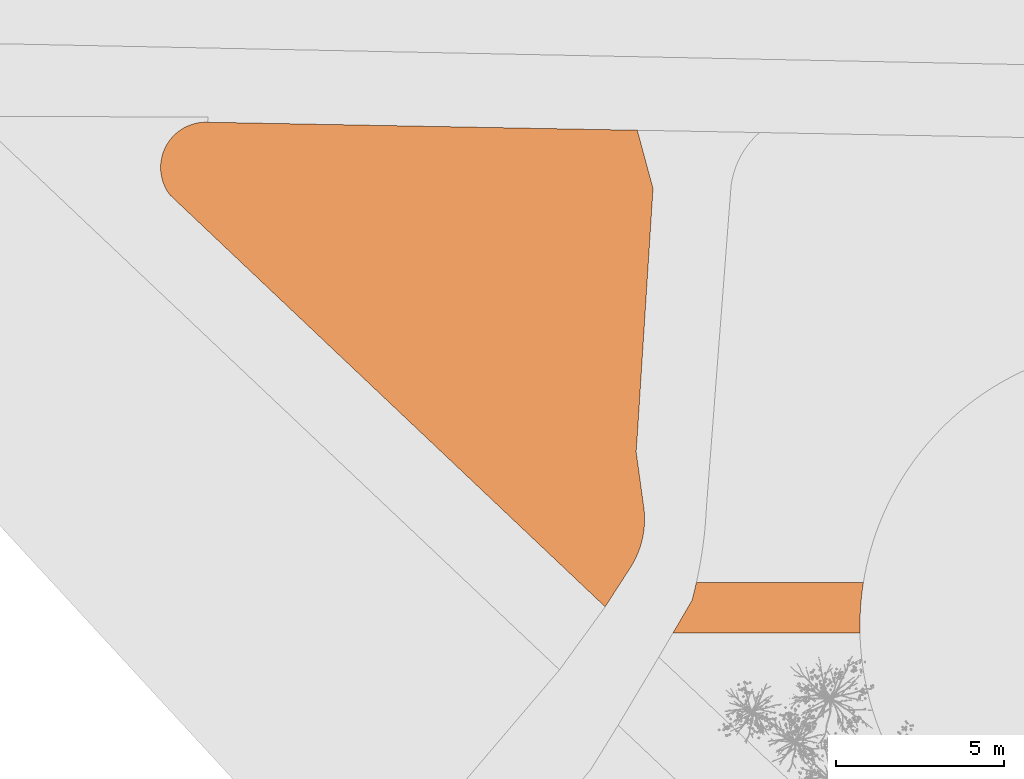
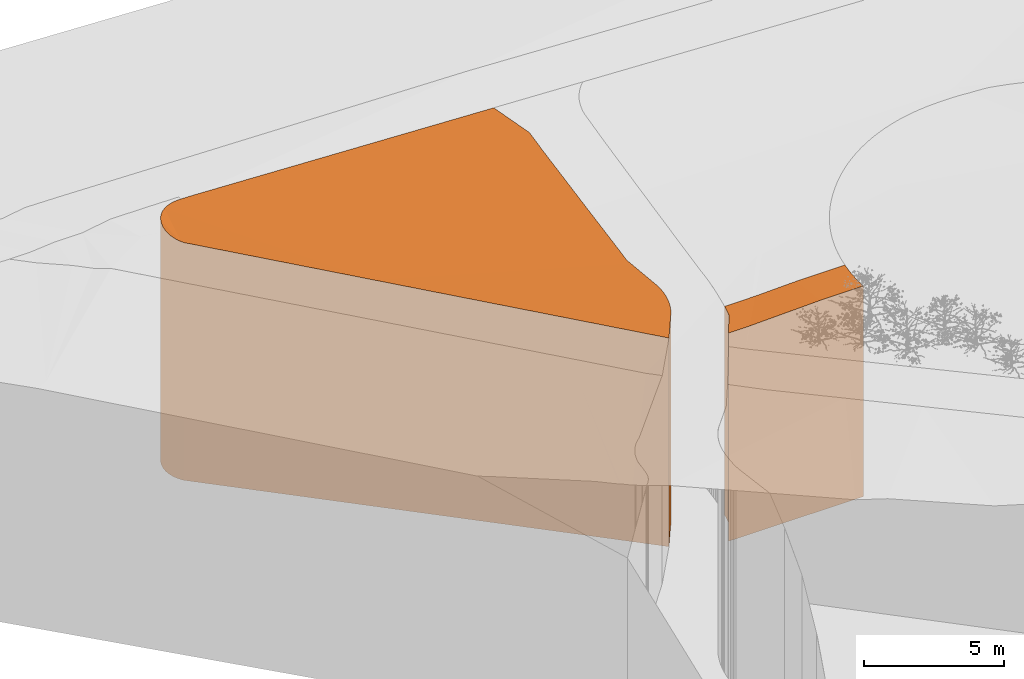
# One storey, part 220 of 246: 2 proxies.
"""IFC2X3 building model written with IfcOpenShell, lengths in millimetres."""

from ifc_helpers import new_model, entity, si_unit, converted_unit, derived_unit, money_unit, direction, frame, origin_with_axes, place, context, subcontext, project, spatial, faceted_brep, material, type_object, element, save


model = new_model("IFC2X3")

# Units and contexts
model_context = context("Model", 3, precision=0.01, world=origin_with_axes(), true_north=direction((0.0, 1.0)))
body_context = subcontext(model_context, "Body", "Model", "MODEL_VIEW")
ifc_project = project(units=[si_unit("LENGTHUNIT", "METRE", prefix="MILLI"), si_unit("AREAUNIT", "SQUARE_METRE"), si_unit("VOLUMEUNIT", "CUBIC_METRE"), converted_unit("PLANEANGLEUNIT", "DEGREE", entity("IfcPlaneAngleMeasure", 0.0174532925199), si_unit("PLANEANGLEUNIT", "RADIAN"), dimensions=[0, 0, 0, 0, 0, 0, 0]), si_unit("SOLIDANGLEUNIT", "STERADIAN"), money_unit("EUR"), converted_unit("TIMEUNIT", "Year", entity("IfcTimeMeasure", 31556926.0), si_unit("TIMEUNIT", "SECOND"), dimensions=[0, 0, 1, 0, 0, 0, 0]), si_unit("MASSUNIT", "GRAM", prefix="KILO"), si_unit("THERMODYNAMICTEMPERATUREUNIT", "DEGREE_CELSIUS"), si_unit("LUMINOUSINTENSITYUNIT", "LUMEN"), si_unit("ENERGYUNIT", "JOULE", prefix="MEGA"), derived_unit("THERMALCONDUCTANCEUNIT", [(si_unit("POWERUNIT", "WATT"), 1), (si_unit("LENGTHUNIT", "METRE"), -1), (si_unit("THERMODYNAMICTEMPERATUREUNIT", "KELVIN"), -1)]), derived_unit("SPECIFICHEATCAPACITYUNIT", [(si_unit("ENERGYUNIT", "JOULE"), 1), (si_unit("MASSUNIT", "GRAM", prefix="KILO"), -1), (si_unit("THERMODYNAMICTEMPERATUREUNIT", "KELVIN"), -1)]), derived_unit("MASSDENSITYUNIT", [(si_unit("MASSUNIT", "GRAM", prefix="KILO"), 1), (si_unit("VOLUMEUNIT", "CUBIC_METRE"), -1)])], contexts=[model_context])

# Site, building, storey
site_placement = place(None, origin_with_axes())
site = spatial("IfcSite", under=ifc_project, at=site_placement, Name="L.Koidula tn 11b", CompositionType="ELEMENT")
building_placement = place(site_placement, origin_with_axes())
building = spatial("IfcBuilding", under=site, at=building_placement, Name="Rakvere Riigigümnaasium", CompositionType="ELEMENT")
storey_placement = place(building_placement, origin_with_axes())
storey = spatial("IfcBuildingStorey", under=building, at=storey_placement, Name="1.korrus 0,00", CompositionType="ELEMENT", Elevation=0.0)

# Proxies
ifc_material_1 = material(Name="Roheala")
building_element_proxy_type_1 = type_object("IfcBuildingElementProxyType", Name="Roheala", PredefinedType="NOTDEFINED")
proxy_1_placement = place(storey_placement, frame((-24944.5032293, 88467.467092, -10000.0), z_axis=(0.0, 0.0, 1.0), x_axis=(1.0, 0.0, 0.0)))
element("IfcBuildingElementProxy", 1, at=proxy_1_placement, inside=storey, type_object=building_element_proxy_type_1, material=ifc_material_1, Name="Roheala", context=body_context, shape_type="Brep", body=[
    faceted_brep([(14209.0382475, 14206.2694753, 10241.4900037), (14678.8347924, 12470.4209752, 10052.0983586), (14678.8347924, 12470.4209752, 0.0), (14209.0382475, 14206.2694753, 0.0), (14608.1474862, 11361.1079279, 9940.7596716), (1902.03904975, 14436.3792388, 10586.6199495), (629.15303016, 14238.1955036, 10599.6664231), (615.113279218, 14229.3350273, 10599.1293031), (14379.838488, 7778.19942582, 9651.17428749), (14212.2959289, 5148.91339652, 9449.0593025), (14212.2959289, 5148.91339652, 0.0), (1403.3434373, 14445.7035856, 0.0), (14174.7981266, 4624.00371488, 0.0), (14412.0649043, 2903.27269072, 0.0), (14425.3033709, 2746.24016786, 0.0), (14428.030697, 2581.07239974, 0.0), (14420.683667, 2416.04558045, 0.0), (14403.2896121, 2251.77362061, 0.0), (14375.9132395, 2088.86762269, 0.0), (14338.656391, 1927.93360771, 0.0), (14291.6576647, 1769.57026078, 0.0), (14235.0918987, 1614.36670393, 0.0), (14169.1695216, 1462.90030461, 0.0), (14094.1357688, 1315.73452775, 0.0), (14010.2697708, 1173.41683973, 0.0), (13964.0766428, 1104.94675571, 0.0), (13252.579957, 0.0, 0.0), (278.262159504, 12275.857169, 0.0), (223.065998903, 12351.1713467, 0.0), (163.143513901, 12450.8080322, 0.0), (112.008099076, 12555.2271046, 0.0), (70.0383431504, 12663.6554814, 0.0), (37.5449755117, 12775.290397, 0.0), (14.7685656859, 12889.3053454, 0.0), (1.87774224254, 13004.8562, 0.0), (-1.03205567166, 13121.0874625, 0.0), (6.060715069, 13237.1385975, 0.0), (23.1035420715, 13352.1504028, 0.0), (49.9702462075, 13465.2713714, 0.0), (86.4619157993, 13575.6639951, 0.0), (132.308379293, 13682.5109656, 0.0), (187.170205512, 13785.0212253, 0.0), (250.641216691, 13882.435824, 0.0), (322.251495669, 13974.0335383, 0.0), (401.470864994, 14059.1362107, 0.0), (487.712812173, 14137.1137707, 0.0), (580.338832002, 14207.3888998, 0.0), (678.663153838, 14269.4413055, 0.0), (781.957818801, 14322.8115735, 0.0), (889.458069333, 14367.104569, 0.0), (1000.36801119, 14401.9923622, 0.0), (1113.86650596, 14427.2166561, 0.0), (1229.11325051, 14442.5906988, 0.0), (1345.25499826, 14448.0006663, 0.0), (1403.3434373, 14445.7035856, 10590.8413661), (1345.25499826, 14448.0006663, 10591.3206877), (1229.11325051, 14442.5906988, 10592.3814011), (1113.86650596, 14427.2166561, 10593.5363314), (1000.36801119, 14401.9923622, 10594.776928), (889.458069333, 14367.104569, 10596.0940058), (781.957818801, 14322.8115735, 10597.4778138), (678.663153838, 14269.4413055, 10598.9181067), (580.338832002, 14207.3888998, 10599.2779397), (592.998677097, 14215.3785185, 10598.1454739), (604.12378017, 14222.3995627, 10598.8861248), (5289.88101729, 7534.03426596, 9904.48713324), (5335.06005016, 7491.28740534, 9899.59076434), (5344.5249293, 7482.33205938, 9898.60165443), (14206.0739098, 4397.18219796, 9390.02432556), (14174.7981266, 4624.00371488, 9408.83048733), (14412.0649043, 2903.27269072, 9281.8189478), (14425.3033709, 2746.24016786, 9270.72930194), (14428.030697, 2581.07239974, 9259.44356921), (14420.683667, 2416.04558045, 9248.50787215), (14403.2896121, 2251.77362061, 9237.96289227), (14375.9132395, 2088.86762269, 9227.84785759), (14338.656391, 1927.93360771, 9218.20039671), (14291.6576647, 1769.57026078, 9209.05639881), (14235.0918987, 1614.36670393, 9200.44988016), (14169.1695216, 1462.90030461, 9192.41285759), (14094.1357688, 1315.73452775, 9184.97522934), (14010.2697708, 1173.41683973, 9178.16466388), (13964.0766428, 1104.94675571, 9175.08558041), (13252.5799571, 4.05435685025e-07, 9124.24890299), (278.262159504, 12275.857169, 10395.5588991), (223.065998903, 12351.1713467, 10403.3763867), (176.664443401, 12428.3259773, 10414.8774314), (163.143513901, 12450.8080322, 10418.4366763), (216.276931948, 12362.4599327, 10404.5492067), (202.740125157, 12384.9683878, 10410.1298556), (112.008099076, 12555.2271046, 10434.1544716), (70.0383431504, 12663.6554814, 10449.6997187), (37.5449755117, 12775.290397, 10464.9573261), (14.7685656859, 12889.3053454, 10479.8143316), (1.87774224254, 13004.8562, 10494.1607394), (0.667624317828, 13054.3063371, 10500.0), (-1.03205567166, 13121.0874625, 10511.0334922), (6.060715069, 13237.1385975, 10530.6791506), (23.1035420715, 13352.1504028, 10550.6191613), (49.9702462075, 13465.2713714, 10570.7058954), (86.4619157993, 13575.6639951, 10590.7906377), (108.513308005, 13627.0556243, 10600.0), (132.308379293, 13682.5109656, 10600.0), (105.246269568, 13619.4416638, 10598.9580779), (187.170205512, 13785.0212253, 10600.0), (250.641216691, 13882.435824, 10600.0), (322.251495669, 13974.0335383, 10600.0), (401.470864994, 14059.1362107, 10600.0), (487.712812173, 14137.1137707, 10600.0), (570.239672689, 14199.7266929, 10600.0), (114.936762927, 13622.9678164, 10600.0)], [[[0, 1, 2, 3]], [[4, 1, 0, 5, 6, 7]], [[8, 9, 10, 2, 1, 4]], [[11, 3, 2, 10, 12, 13, 14, 15, 16, 17, 18, 19, 20, 21, 22, 23, 24, 25, 26, 27, 28, 29, 30, 31, 32, 33, 34, 35, 36, 37, 38, 39, 40, 41, 42, 43, 44, 45, 46, 47, 48, 49, 50, 51, 52, 53]], [[5, 0, 3, 11, 54]], [[5, 54, 55, 56, 57, 58, 59, 60, 61, 6]], [[6, 61, 47, 46, 62, 63, 64, 7]], [[8, 4, 7, 64, 65, 66]], [[9, 8, 66, 67, 68, 69]], [[9, 69, 12, 10]], [[68, 70, 13, 12, 69]], [[70, 71, 14, 13]], [[71, 72, 15, 14]], [[72, 73, 16, 15]], [[73, 74, 17, 16]], [[74, 75, 18, 17]], [[75, 76, 19, 18]], [[76, 77, 20, 19]], [[77, 78, 21, 20]], [[78, 79, 22, 21]], [[79, 80, 23, 22]], [[80, 81, 24, 23]], [[81, 82, 25, 24]], [[82, 83, 26, 25]], [[65, 84, 27, 26, 83, 67, 66]], [[84, 85, 28, 27]], [[86, 87, 29, 28, 85, 88, 89]], [[87, 90, 30, 29]], [[90, 91, 31, 30]], [[91, 92, 32, 31]], [[92, 93, 33, 32]], [[93, 94, 34, 33]], [[95, 96, 35, 34, 94]], [[96, 97, 36, 35]], [[97, 98, 37, 36]], [[98, 99, 38, 37]], [[99, 100, 39, 38]], [[101, 102, 40, 39, 100, 103]], [[102, 104, 41, 40]], [[104, 105, 42, 41]], [[105, 106, 43, 42]], [[106, 107, 44, 43]], [[107, 108, 45, 44]], [[109, 62, 46, 45, 108]], [[61, 60, 48, 47]], [[60, 59, 49, 48]], [[59, 58, 50, 49]], [[58, 57, 51, 50]], [[57, 56, 52, 51]], [[56, 55, 53, 52]], [[55, 54, 11, 53]], [[63, 62, 109, 110, 89, 88]], [[84, 65, 64, 63, 88, 85]], [[73, 72, 71, 70, 68, 67, 83, 82, 81, 80, 79, 78, 77, 76, 75, 74]], [[87, 86, 95, 94, 93, 92, 91, 90]], [[86, 89, 110, 95]], [[103, 100, 99, 98, 97, 96, 95, 110]], [[109, 108, 107, 106, 105, 104, 102, 101, 110]], [[101, 103, 110]]]),
])
ifc_material_2 = material(Name="Killustik")
building_element_proxy_type_2 = type_object("IfcBuildingElementProxyType", Name="Killustik", PredefinedType="NOTDEFINED")
proxy_2_placement = place(storey_placement, frame((-9669.66535178, 87692.3066135, -10000.0), z_axis=(0.0, 0.0, 1.0), x_axis=(1.0, 0.0, 0.0)))
element("IfcBuildingElementProxy", 2, at=proxy_2_placement, inside=storey, type_object=building_element_proxy_type_2, material=ifc_material_2, Name="Kõnnitee", context=body_context, shape_type="Brep", body=[
    faceted_brep([(1950.10414084, 1500.01226366, 9122.32525162), (3663.444991, 1500.01226366, 9179.03129665), (5675.73817853, 1500.01226366, 9183.25697273), (5675.73817853, 1500.01226366, 0.0), (695.794574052, 1500.01226366, 0.0), (695.794574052, 1500.01226366, 9116.74514068), (1834.92665217, 1500.01226366, 9122.28030241), (875.430115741, 0.0, 9109.96994883), (3786.45958656, 0.0, 9206.31561654), (5652.97177113, 1356.77172723, 9185.78995603), (5573.54424827, 0.0, 9210.06837034), (5571.58935863, 36.1921771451, 9209.41218408), (5571.58935863, 181.230656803, 9206.79899902), (5576.02335396, 490.296579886, 9201.23981233), (5591.6946426, 779.949912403, 9196.0539834), (5617.35430802, 1068.88973987, 9190.90198472), (5652.97177113, 1356.77172723, 0.0), (5571.58935863, 36.1921771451, 0.0), (5573.54424827, 0.0, 0.0), (0.0, 0.0, 0.0), (563.979941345, 963.774056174, 0.0), (610.709915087, 1137.79791933, 0.0), (5617.35430802, 1068.88973987, 0.0), (5591.6946426, 779.949912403, 0.0), (5576.02335396, 490.296579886, 0.0), (5571.58935863, 181.230656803, 0.0), (610.709915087, 1137.79791933, 9114.54040067), (563.979941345, 963.774056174, 9113.45271245), (0.0, 0.0, 9105.94600033), (823.994472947, 0.0, 9109.94987553)], [[[0, 1, 2, 3, 4, 5, 6]], [[7, 8, 1, 0]], [[9, 2, 1, 8, 10, 11, 12, 13, 14, 15]], [[2, 9, 16, 3]], [[17, 18, 19, 20, 21, 4, 3, 16, 22, 23, 24, 25]], [[26, 5, 4, 21]], [[6, 5, 26, 27, 28, 29]], [[0, 6, 29, 7]], [[29, 28, 19, 18, 10, 8, 7]], [[11, 10, 18, 17]], [[12, 11, 17, 25]], [[13, 12, 25, 24]], [[14, 13, 24, 23]], [[15, 14, 23, 22]], [[9, 15, 22, 16]], [[28, 27, 20, 19]], [[27, 26, 21, 20]]]),
])

save(model, "model.ifc")
